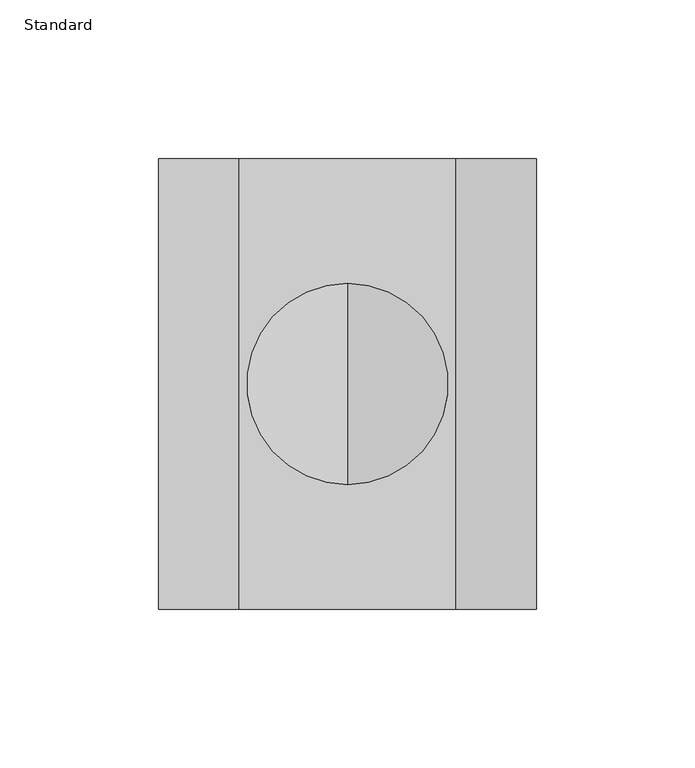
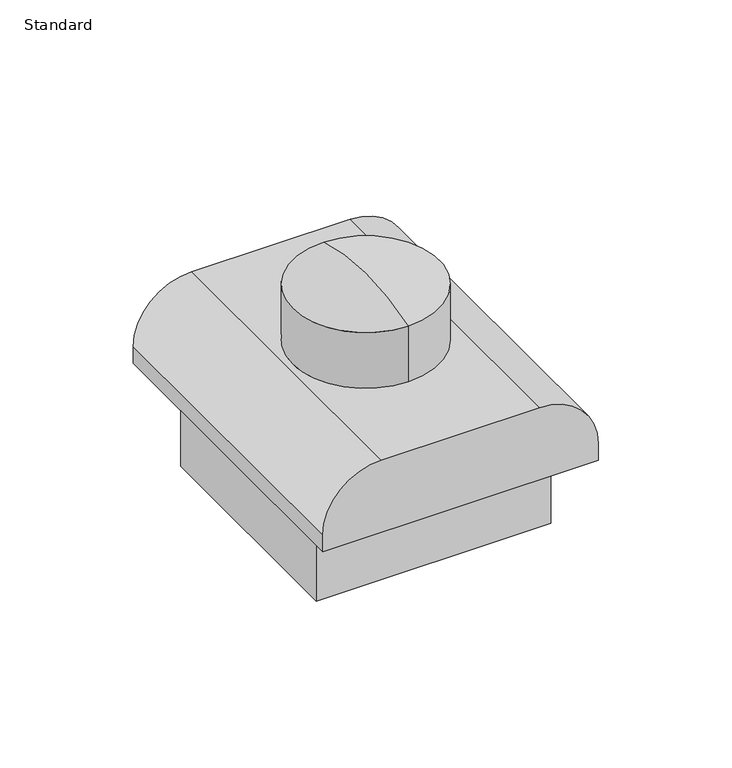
"""IFC4 building model written with IfcOpenShell, lengths in millimetres: alarm geometry, OMAHA - Fire Alarm Speaker Strobe (Single) - Wall Mounted CESAM : Standard."""

from ifc_helpers import new_model, si_unit, point, frame, origin, place, context, project, spatial, circle_curve, ellipse_curve, trimmed, source, transform, mapped, element, save
from ifc_brep_helpers import plane_surface, cylinder_surface, revolved_surface, advanced_brep


def standard_586d6311(model_context):
    return source(origin(), model_context, "Body", "AdvancedBrep", [
        advanced_brep(
        [(0.0, -31.75, 58.4116444), (0.0, 31.75, 58.4116444), (0.0, 31.75, 33.02), (0.0, -31.75, 33.02), (0.0, 0.0, 63.5), (59.69, -71.12, 0.0), (59.69, -71.12, 7.62), (34.29, -71.12, 33.02), (-34.29, -71.12, 33.02), (-59.69, -71.12, 7.62), (-59.69, -71.12, 0.0), (59.69, 71.12, 0.0), (-59.69, 71.12, 0.0), (-59.69, 71.12, 7.62), (-34.29, 71.12, 33.02), (34.29, 71.12, 33.02), (59.69, 71.12, 7.62), (50.8, 50.8, 0.0), (-50.8, 50.8, 0.0), (-50.8, -50.8, 0.0), (50.8, -50.8, 0.0), (50.8, 50.8, -38.1), (50.8, -50.8, -38.1), (-50.8, -50.8, -38.1), (-50.8, 50.8, -38.1)],
        [
            (0, 1, circle_curve(frame((0.0, 0.0, 58.4116444), z_axis=(0.0, 0.0, -1.0), x_axis=(0.0, 1.0, 0.0)), 31.75)),
            (1, 2),
            (2, 3, circle_curve(frame((0.0, 0.0, 33.02), z_axis=(0.0, 0.0, 1.0), x_axis=(0.0, 1.0, 0.0)), 31.75)),
            (3, 0),
            (1, 0, circle_curve(frame((0.0, 0.0, 58.4116444), z_axis=(0.0, 0.0, -1.0), x_axis=(0.0, 1.0, 0.0)), 31.75)),
            (3, 2, circle_curve(frame((0.0, 0.0, 33.02), z_axis=(0.0, 0.0, 1.0), x_axis=(0.0, 1.0, 0.0)), 31.75)),
            (0, 4, circle_curve(frame((0.0, 0.0, -38.1), z_axis=(-1.0, 0.0, 0.0), x_axis=(0.0, -1.0, 0.0)), 101.6)),
            (4, 1, circle_curve(frame((0.0, 0.0, -38.1), z_axis=(-1.0, 0.0, 0.0), x_axis=(0.0, 1.0, 0.0)), 101.6)),
            (5, 6),
            (6, 7, circle_curve(frame((34.29, -71.12, 7.62), z_axis=(0.0, -1.0, 0.0), x_axis=(1.0, 0.0, 0.0)), 25.4)),
            (7, 8),
            (8, 9, circle_curve(frame((-34.29, -71.12, 7.62), z_axis=(0.0, -1.0, 0.0), x_axis=(1.0, 0.0, 0.0)), 25.4)),
            (9, 10),
            (10, 5),
            (11, 12),
            (12, 13),
            (13, 14, circle_curve(frame((-34.29, 71.12, 7.62), z_axis=(0.0, 1.0, 0.0), x_axis=(1.0, 0.0, 0.0)), 25.4)),
            (14, 15),
            (15, 16, circle_curve(frame((34.29, 71.12, 7.62), z_axis=(0.0, 1.0, 0.0), x_axis=(1.0, 0.0, 0.0)), 25.4)),
            (16, 11),
            (5, 11),
            (16, 6),
            (15, 7),
            (14, 8),
            (13, 9),
            (12, 10),
            (17, 18),
            (18, 19),
            (19, 20),
            (20, 17),
            (21, 22),
            (22, 23),
            (23, 24),
            (24, 21),
            (24, 18),
            (17, 21),
            (23, 19),
            (22, 20),
        ],
        [
            cylinder_surface(frame((0.0, 0.0, 102.87), z_axis=(0.0, 0.0, 1.0), x_axis=(0.0, 1.0, 0.0)), 31.75),
            revolved_surface(trimmed(ellipse_curve(frame((0.0, 0.0, -38.1), z_axis=(1.0, 0.0, 0.0), x_axis=(0.0, 1.0, 0.0)), 101.6, 101.6), [point((0.0, 31.75, 58.4116444))], [point((0.0, 0.0, 63.5))], True, "CARTESIAN"), (0.0, 0.0, 102.87), (0.0, 0.0, 1.0)),
            plane_surface(frame((59.69, -71.12, 0.0), z_axis=(0.0, -1.0, 0.0), x_axis=(0.0, 0.0, 1.0))),
            plane_surface(frame((59.69, 71.12, 0.0), z_axis=(0.0, 1.0, 0.0), x_axis=(0.0, 0.0, -1.0))),
            plane_surface(frame((59.69, -71.12, 0.0), z_axis=(1.0, 0.0, 0.0), x_axis=(0.0, 1.0, 0.0))),
            cylinder_surface(frame((34.29, 71.12, 7.62), z_axis=(0.0, -1.0, 0.0), x_axis=(1.0, 0.0, 0.0)), 25.4),
            plane_surface(frame((34.29, -71.12, 33.02), z_axis=(0.0, 0.0, 1.0), x_axis=(0.0, 1.0, 0.0))),
            cylinder_surface(frame((-34.29, 71.12, 7.62), z_axis=(0.0, -1.0, 0.0), x_axis=(1.0, 0.0, 0.0)), 25.4),
            plane_surface(frame((-59.69, -71.12, 7.62), z_axis=(-1.0, 0.0, 0.0), x_axis=(0.0, 1.0, 0.0))),
            plane_surface(frame((-59.69, -71.12, 0.0), z_axis=(0.0, 0.0, -1.0), x_axis=(0.0, 1.0, 0.0))),
            plane_surface(frame((-59.69, 50.8, -38.1), z_axis=(0.0, 0.0, -1.0), x_axis=(1.0, 0.0, 0.0))),
            plane_surface(frame((50.8, 50.8, 0.0), z_axis=(0.0, 1.0, 0.0), x_axis=(0.0, 0.0, -1.0))),
            plane_surface(frame((-50.8, 50.8, 0.0), z_axis=(-1.0, 0.0, 0.0), x_axis=(0.0, 0.0, -1.0))),
            plane_surface(frame((-50.8, -50.8, 0.0), z_axis=(0.0, -1.0, 0.0), x_axis=(0.0, 0.0, -1.0))),
            plane_surface(frame((50.8, -50.8, 0.0), z_axis=(1.0, 0.0, 0.0), x_axis=(0.0, 0.0, -1.0))),
        ],
        [
            (0, [[1, 2, 3, 4]]),
            (0, [[-2, 5, -4, 6]]),
            (1, [[-1, 7, 8]]),
            (1, [[-5, -8, -7]]),
            (2, [[9, 10, 11, 12, 13, 14]]),
            (3, [[15, 16, 17, 18, 19, 20]]),
            (4, [[-9, 21, -20, 22]]),
            (5, [[-10, -22, -19, 23]]),
            (6, [[-11, -23, -18, 24], [-3, -6]]),
            (7, [[-12, -24, -17, 25]]),
            (8, [[-13, -25, -16, 26]]),
            (9, [[-14, -26, -15, -21], [27, 28, 29, 30]]),
            (10, [[31, 32, 33, 34]]),
            (11, [[-34, 35, -27, 36]]),
            (12, [[-33, 37, -28, -35]]),
            (13, [[-32, 38, -29, -37]]),
            (14, [[-31, -36, -30, -38]]),
        ],
    ),
    ])


if __name__ == "__main__":
    model = new_model("IFC4")
    model_context = context("Model", 3, world=origin())
    ifc_project = project(units=[si_unit("LENGTHUNIT", "METRE", prefix="MILLI")], contexts=[model_context])
    site = spatial("IfcSite", under=ifc_project)
    building = spatial("IfcBuilding", under=site)
    placement = place(None, origin())
    standard_shape = standard_586d6311(model_context)
    element("IfcAlarm", 1, ObjectType="OMAHA - Fire Alarm Speaker Strobe (Single) - Wall Mounted CESAM : Standard", at=placement, inside=building, context=model_context, shape_type="MappedRepresentation", body=[
        mapped(standard_shape, transform((0.0, 0.0, 0.0), x_axis=(1.0, 0.0, 0.0), y_axis=(0.0, 1.0, 0.0), z_axis=(0.0, 0.0, 1.0))),
    ])
    save(model, "model.ifc")
